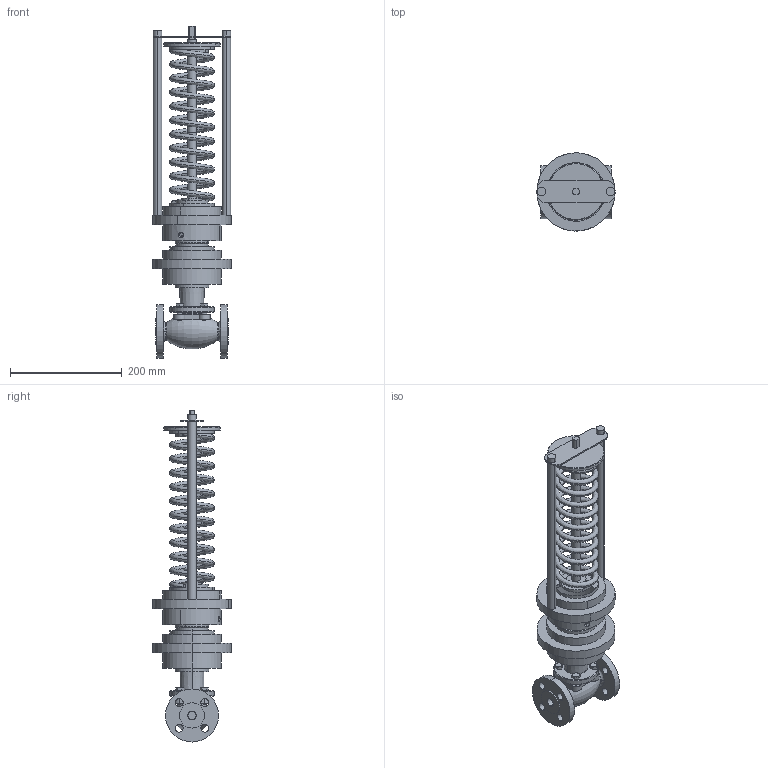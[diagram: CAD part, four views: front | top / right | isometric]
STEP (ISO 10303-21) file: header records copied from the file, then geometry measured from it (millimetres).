
FILE_DESCRIPTION (( 'STEP AP214' ), '1' );
FILE_NAME ('RDT, RDT-B DN-15 (0.1).STEP', '2025-12-12T06:52:47', ( '' ), ( '' ), 'SwSTEP 2.0', 'SolidWorks 2023', '' );
FILE_SCHEMA (( 'AUTOMOTIVE_DESIGN' ));
Length unit declared in the file: millimetre
Products named in the file (4): RDT, RDT-B DN-15 (0.1); RDT___ DN-15-100(0.1).stp; RDT, RDT-B DN-15 (0.1).stp; RDT DN-15(______).stp
Assembly tree (3 placements, depth 3):
  RDT, RDT-B DN-15 (0.1)
    RDT, RDT-B DN-15 (0.1).stp
      RDT___ DN-15-100(0.1).stp
      RDT DN-15(______).stp
Bounding box: 140 x 140 x 594 mm (x, y, z)
Volume: 2382093.3 mm3; surface area: 332821.2 mm2
Topology: 2 solids, 2 shells, 241 faces, 580 edges, 374 vertices
Faces by surface type: cylinder 106, plane 91, cone 34, torus 8, bspline 2
Entity records: 11474 total; most frequent: CARTESIAN_POINT 5537, DIRECTION 1297, ORIENTED_EDGE 1160, EDGE_CURVE 580, AXIS2_PLACEMENT_3D 531, VERTEX_POINT 374, EDGE_LOOP 302, CIRCLE 285
